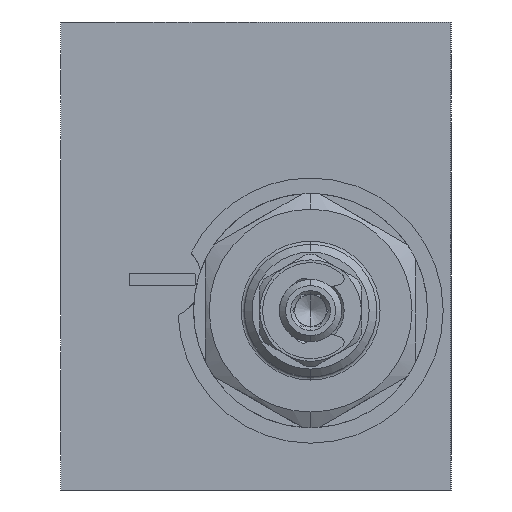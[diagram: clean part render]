
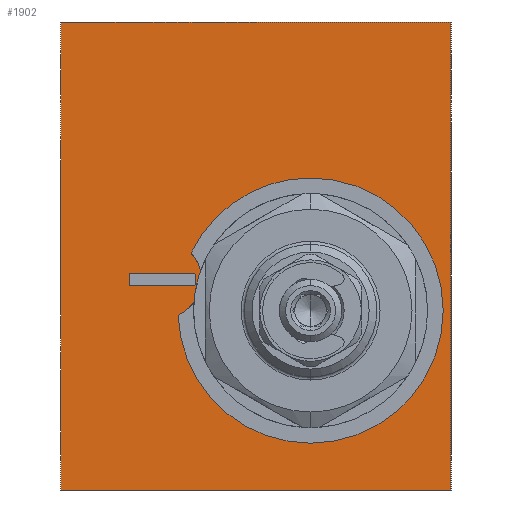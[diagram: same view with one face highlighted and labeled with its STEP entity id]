
A CAD part, left-side view. The second image highlights one B-rep face of the part: STEP entity #1902.
In plain terms, the highlighted planar face has unit normal (-1, 0, 0).
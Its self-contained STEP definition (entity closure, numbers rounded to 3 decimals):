
#33 = AXIS2_PLACEMENT_3D ( 'NONE', #5702, #910, #6512 ) ;
#60 = CARTESIAN_POINT ( 'NONE',  ( 0., 25., -30. ) ) ;
#142 = DIRECTION ( 'NONE',  ( 0., 0., 1. ) ) ;
#330 = LINE ( 'NONE', #2958, #9603 ) ;
#395 = DIRECTION ( 'NONE',  ( -1., 0., 0. ) ) ;
#437 = LINE ( 'NONE', #3764, #912 ) ;
#476 = DIRECTION ( 'NONE',  ( -1., 0., 0. ) ) ;
#546 = DIRECTION ( 'NONE',  ( 0., 0., 1. ) ) ;
#620 = DIRECTION ( 'NONE',  ( 0., 0., 1. ) ) ;
#630 = AXIS2_PLACEMENT_3D ( 'NONE', #8414, #1217, #620 ) ;
#762 = EDGE_CURVE ( 'NONE', #10213, #8795, #6070, .T. ) ;
#878 = CARTESIAN_POINT ( 'NONE',  ( 0., -25., -30. ) ) ;
#910 = DIRECTION ( 'NONE',  ( -1., 0., 0. ) ) ;
#912 = VECTOR ( 'NONE', #7089, 1000. ) ;
#984 = CARTESIAN_POINT ( 'NONE',  ( 0., 16.174, -3.8 ) ) ;
#1043 = DIRECTION ( 'NONE',  ( 0., -1., 0. ) ) ;
#1058 = VERTEX_POINT ( 'NONE', #3401 ) ;
#1217 = DIRECTION ( 'NONE',  ( -1., 0., 0. ) ) ;
#1288 = CARTESIAN_POINT ( 'NONE',  ( 0., 16.174, -2.2 ) ) ;
#1298 = VERTEX_POINT ( 'NONE', #878 ) ;
#1304 = AXIS2_PLACEMENT_3D ( 'NONE', #1473, #7065, #2241 ) ;
#1324 = EDGE_CURVE ( 'NONE', #1945, #1058, #7777, .T. ) ;
#1332 = DIRECTION ( 'NONE',  ( 0., 1., 0. ) ) ;
#1473 = CARTESIAN_POINT ( 'NONE',  ( 0., 12., -3. ) ) ;
#1724 = CARTESIAN_POINT ( 'NONE',  ( 0., 12., -3. ) ) ;
#1831 = LINE ( 'NONE', #5292, #6181 ) ;
#1902 = ADVANCED_FACE ( 'NONE', ( #7035, #2760, #4925 ), #10377, .T. ) ;
#1945 = VERTEX_POINT ( 'NONE', #2654 ) ;
#2164 = AXIS2_PLACEMENT_3D ( 'NONE', #5214, #476, #6059 ) ;
#2212 = VERTEX_POINT ( 'NONE', #6717 ) ;
#2241 = DIRECTION ( 'NONE',  ( 0., 0., 1. ) ) ;
#2296 = VERTEX_POINT ( 'NONE', #4669 ) ;
#2383 = EDGE_CURVE ( 'NONE', #1298, #9849, #7377, .T. ) ;
#2431 = EDGE_CURVE ( 'NONE', #2212, #1298, #330, .T. ) ;
#2450 = VERTEX_POINT ( 'NONE', #4800 ) ;
#2467 = VERTEX_POINT ( 'NONE', #5718 ) ;
#2539 = CARTESIAN_POINT ( 'NONE',  ( 0., 7.826, -3.8 ) ) ;
#2549 = DIRECTION ( 'NONE',  ( 0., 0., 1. ) ) ;
#2567 = EDGE_CURVE ( 'NONE', #5592, #1945, #6196, .T. ) ;
#2654 = CARTESIAN_POINT ( 'NONE',  ( 0., 7.826, -2.2 ) ) ;
#2672 = DIRECTION ( 'NONE',  ( -1., 0., 0. ) ) ;
#2760 = FACE_OUTER_BOUND ( 'NONE', #4040, .T. ) ;
#2958 = CARTESIAN_POINT ( 'NONE',  ( 0., -25., 30. ) ) ;
#3044 = EDGE_CURVE ( 'NONE', #5584, #5592, #437, .T. ) ;
#3401 = CARTESIAN_POINT ( 'NONE',  ( 0., 16.174, -2.2 ) ) ;
#3408 = DIRECTION ( 'NONE',  ( -1., 0., 0. ) ) ;
#3598 = AXIS2_PLACEMENT_3D ( 'NONE', #1724, #7351, #2549 ) ;
#3605 = EDGE_LOOP ( 'NONE', ( #7836, #8195, #8510, #8939, #8943, #9006 ) ) ;
#3764 = CARTESIAN_POINT ( 'NONE',  ( 0., 16.174, -3.8 ) ) ;
#4040 = EDGE_LOOP ( 'NONE', ( #9069, #9172, #9202, #9255 ) ) ;
#4249 = AXIS2_PLACEMENT_3D ( 'NONE', #8236, #3408, #9092 ) ;
#4399 = VERTEX_POINT ( 'NONE', #6668 ) ;
#4557 = EDGE_LOOP ( 'NONE', ( #9427, #9468, #9742, #8014 ) ) ;
#4580 = CIRCLE ( 'NONE', #8479, 17. ) ;
#4656 = CARTESIAN_POINT ( 'NONE',  ( 0., -7., -7. ) ) ;
#4669 = CARTESIAN_POINT ( 'NONE',  ( 0., 9.99, -7.578 ) ) ;
#4744 = CIRCLE ( 'NONE', #3598, 5. ) ;
#4800 = CARTESIAN_POINT ( 'NONE',  ( 0., 25., 30. ) ) ;
#4915 = EDGE_CURVE ( 'NONE', #10213, #4399, #4744, .T. ) ;
#4925 = FACE_BOUND ( 'NONE', #4557, .T. ) ;
#5214 = CARTESIAN_POINT ( 'NONE',  ( 0., -7., -7. ) ) ;
#5280 = VECTOR ( 'NONE', #8976, 1000. ) ;
#5292 = CARTESIAN_POINT ( 'NONE',  ( 0., 25., 30. ) ) ;
#5477 = DIRECTION ( 'NONE',  ( 0., 0., 1. ) ) ;
#5584 = VERTEX_POINT ( 'NONE', #984 ) ;
#5592 = VERTEX_POINT ( 'NONE', #2539 ) ;
#5702 = CARTESIAN_POINT ( 'NONE',  ( 0., -7., -7. ) ) ;
#5718 = CARTESIAN_POINT ( 'NONE',  ( 0., -7., 10. ) ) ;
#5754 = AXIS2_PLACEMENT_3D ( 'NONE', #7464, #2672, #8328 ) ;
#5863 = CIRCLE ( 'NONE', #1304, 4.25 ) ;
#6021 = EDGE_CURVE ( 'NONE', #1058, #5584, #5863, .T. ) ;
#6059 = DIRECTION ( 'NONE',  ( 0., 0., 1. ) ) ;
#6070 = CIRCLE ( 'NONE', #2164, 15. ) ;
#6160 = CARTESIAN_POINT ( 'NONE',  ( 0., 25., -30. ) ) ;
#6181 = VECTOR ( 'NONE', #546, 1000. ) ;
#6191 = CIRCLE ( 'NONE', #33, 17. ) ;
#6196 = CIRCLE ( 'NONE', #630, 4.25 ) ;
#6241 = EDGE_CURVE ( 'NONE', #9604, #2467, #7749, .T. ) ;
#6270 = AXIS2_PLACEMENT_3D ( 'NONE', #60, #395, #142 ) ;
#6512 = DIRECTION ( 'NONE',  ( 0., 0., 1. ) ) ;
#6549 = VECTOR ( 'NONE', #1043, 1000. ) ;
#6648 = EDGE_CURVE ( 'NONE', #2296, #9604, #6191, .T. ) ;
#6668 = CARTESIAN_POINT ( 'NONE',  ( 0., 8.315, 0.379 ) ) ;
#6717 = CARTESIAN_POINT ( 'NONE',  ( 0., -25., 30. ) ) ;
#6836 = EDGE_CURVE ( 'NONE', #2450, #2212, #8685, .T. ) ;
#6839 = EDGE_CURVE ( 'NONE', #2296, #8795, #8945, .T. ) ;
#7035 = FACE_BOUND ( 'NONE', #3605, .T. ) ;
#7065 = DIRECTION ( 'NONE',  ( -1., 0., 0. ) ) ;
#7089 = DIRECTION ( 'NONE',  ( 0., -1., 0. ) ) ;
#7182 = CARTESIAN_POINT ( 'NONE',  ( 0., 7.116, -1.928 ) ) ;
#7351 = DIRECTION ( 'NONE',  ( -1., 0., 0. ) ) ;
#7377 = LINE ( 'NONE', #8345, #5280 ) ;
#7464 = CARTESIAN_POINT ( 'NONE',  ( 0., -7., -7. ) ) ;
#7749 = CIRCLE ( 'NONE', #5754, 17. ) ;
#7777 = LINE ( 'NONE', #1288, #8746 ) ;
#7836 = ORIENTED_EDGE ( 'NONE', *, *, #762, .F. ) ;
#8014 = ORIENTED_EDGE ( 'NONE', *, *, #2567, .F. ) ;
#8195 = ORIENTED_EDGE ( 'NONE', *, *, #4915, .T. ) ;
#8236 = CARTESIAN_POINT ( 'NONE',  ( 0., 12., -3. ) ) ;
#8328 = DIRECTION ( 'NONE',  ( 0., 0., 1. ) ) ;
#8345 = CARTESIAN_POINT ( 'NONE',  ( 0., -25., -30. ) ) ;
#8414 = CARTESIAN_POINT ( 'NONE',  ( 0., 12., -3. ) ) ;
#8479 = AXIS2_PLACEMENT_3D ( 'NONE', #4656, #10382, #5477 ) ;
#8510 = ORIENTED_EDGE ( 'NONE', *, *, #8782, .F. ) ;
#8685 = LINE ( 'NONE', #9052, #6549 ) ;
#8746 = VECTOR ( 'NONE', #1332, 1000. ) ;
#8782 = EDGE_CURVE ( 'NONE', #2467, #4399, #4580, .T. ) ;
#8795 = VERTEX_POINT ( 'NONE', #10413 ) ;
#8927 = CARTESIAN_POINT ( 'NONE',  ( 0., -7., -24. ) ) ;
#8939 = ORIENTED_EDGE ( 'NONE', *, *, #6241, .F. ) ;
#8943 = ORIENTED_EDGE ( 'NONE', *, *, #6648, .F. ) ;
#8945 = CIRCLE ( 'NONE', #4249, 5. ) ;
#8976 = DIRECTION ( 'NONE',  ( 0., 1., 0. ) ) ;
#9006 = ORIENTED_EDGE ( 'NONE', *, *, #6839, .T. ) ;
#9052 = CARTESIAN_POINT ( 'NONE',  ( 0., -25., 30. ) ) ;
#9069 = ORIENTED_EDGE ( 'NONE', *, *, #2383, .F. ) ;
#9092 = DIRECTION ( 'NONE',  ( 0., 0., 1. ) ) ;
#9172 = ORIENTED_EDGE ( 'NONE', *, *, #2431, .F. ) ;
#9202 = ORIENTED_EDGE ( 'NONE', *, *, #6836, .F. ) ;
#9255 = ORIENTED_EDGE ( 'NONE', *, *, #10033, .F. ) ;
#9427 = ORIENTED_EDGE ( 'NONE', *, *, #3044, .F. ) ;
#9468 = ORIENTED_EDGE ( 'NONE', *, *, #6021, .F. ) ;
#9499 = DIRECTION ( 'NONE',  ( 0., 0., -1. ) ) ;
#9603 = VECTOR ( 'NONE', #9499, 1000. ) ;
#9604 = VERTEX_POINT ( 'NONE', #8927 ) ;
#9742 = ORIENTED_EDGE ( 'NONE', *, *, #1324, .F. ) ;
#9849 = VERTEX_POINT ( 'NONE', #6160 ) ;
#10033 = EDGE_CURVE ( 'NONE', #9849, #2450, #1831, .T. ) ;
#10213 = VERTEX_POINT ( 'NONE', #7182 ) ;
#10377 = PLANE ( 'NONE',  #6270 ) ;
#10382 = DIRECTION ( 'NONE',  ( -1., 0., 0. ) ) ;
#10413 = CARTESIAN_POINT ( 'NONE',  ( 0., 7.963, -5.95 ) ) ;
